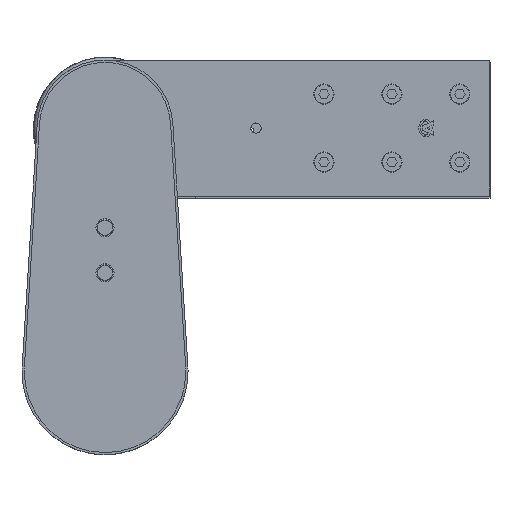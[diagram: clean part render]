
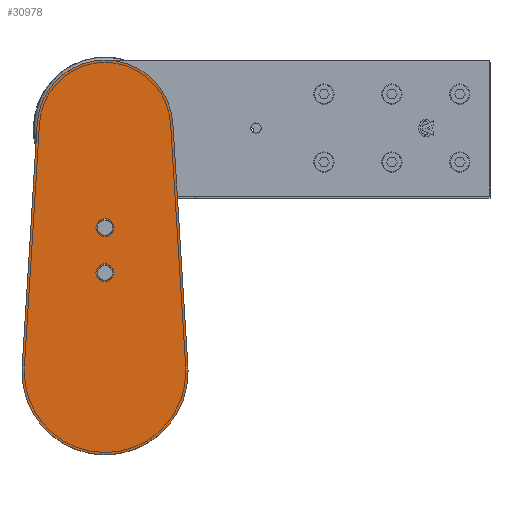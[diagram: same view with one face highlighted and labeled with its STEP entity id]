
A CAD part, top view. The second image highlights one B-rep face of the part: STEP entity #30978.
In plain terms, the highlighted planar face has unit normal (0, 0, 1) as drawn and (0, 0, -1) by its records, which use the part's own axes.
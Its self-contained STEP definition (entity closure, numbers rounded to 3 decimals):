
#223 = CARTESIAN_POINT ( 'NONE',  ( 0., 161.5, 0. ) ) ;
#802 = DIRECTION ( 'NONE',  ( 0., 0., -1. ) ) ;
#994 = CARTESIAN_POINT ( 'NONE',  ( 0., 65.5, 0. ) ) ;
#1112 = CARTESIAN_POINT ( 'NONE',  ( 0., 0., 0. ) ) ;
#1592 = VERTEX_POINT ( 'NONE', #25892 ) ;
#2898 = CIRCLE ( 'NONE', #48712, 45. ) ;
#3396 = CARTESIAN_POINT ( 'NONE',  ( -44.914, 164.286, 0. ) ) ;
#3438 = DIRECTION ( 'NONE',  ( -0.062, 0.998, 0. ) ) ;
#5009 = CARTESIAN_POINT ( 'NONE',  ( -3.5, 95.5, 0. ) ) ;
#5903 = AXIS2_PLACEMENT_3D ( 'NONE', #41710, #23920, #11230 ) ;
#6350 = VERTEX_POINT ( 'NONE', #44635 ) ;
#6671 = AXIS2_PLACEMENT_3D ( 'NONE', #1112, #44398, #48236 ) ;
#7446 = CARTESIAN_POINT ( 'NONE',  ( 55., 0., 0. ) ) ;
#7670 = VERTEX_POINT ( 'NONE', #20261 ) ;
#8711 = DIRECTION ( 'NONE',  ( 1., 0., 0. ) ) ;
#9441 = AXIS2_PLACEMENT_3D ( 'NONE', #42967, #43341, #17027 ) ;
#10037 = EDGE_CURVE ( 'NONE', #27285, #24742, #46266, .T. ) ;
#10058 = ORIENTED_EDGE ( 'NONE', *, *, #32814, .F. ) ;
#10325 = VERTEX_POINT ( 'NONE', #22258 ) ;
#11184 = ORIENTED_EDGE ( 'NONE', *, *, #10037, .F. ) ;
#11230 = DIRECTION ( 'NONE',  ( 1., 0., 0. ) ) ;
#11331 = AXIS2_PLACEMENT_3D ( 'NONE', #994, #802, #26713 ) ;
#12292 = EDGE_CURVE ( 'NONE', #1592, #7670, #51615, .T. ) ;
#12696 = AXIS2_PLACEMENT_3D ( 'NONE', #223, #21576, #8711 ) ;
#12742 = VERTEX_POINT ( 'NONE', #55435 ) ;
#14121 = VERTEX_POINT ( 'NONE', #3396 ) ;
#14702 = ORIENTED_EDGE ( 'NONE', *, *, #12292, .F. ) ;
#16186 = CIRCLE ( 'NONE', #6671, 55. ) ;
#17027 = DIRECTION ( 'NONE',  ( 1., 0., 0. ) ) ;
#17042 = PLANE ( 'NONE',  #12696 ) ;
#17529 = FACE_OUTER_BOUND ( 'NONE', #31058, .T. ) ;
#19036 = ORIENTED_EDGE ( 'NONE', *, *, #33011, .F. ) ;
#19701 = CARTESIAN_POINT ( 'NONE',  ( 0., 0., 0. ) ) ;
#19945 = ORIENTED_EDGE ( 'NONE', *, *, #32907, .F. ) ;
#20181 = DIRECTION ( 'NONE',  ( 1., 0., 0. ) ) ;
#20261 = CARTESIAN_POINT ( 'NONE',  ( 3.5, 65.5, 0. ) ) ;
#20691 = EDGE_CURVE ( 'NONE', #27225, #10325, #43272, .T. ) ;
#21576 = DIRECTION ( 'NONE',  ( 0., 0., 1. ) ) ;
#22053 = DIRECTION ( 'NONE',  ( -0.062, -0.998, 0. ) ) ;
#22258 = CARTESIAN_POINT ( 'NONE',  ( 54.894, 3.406, 0. ) ) ;
#22510 = DIRECTION ( 'NONE',  ( 0., 0., -1. ) ) ;
#23037 = EDGE_CURVE ( 'NONE', #6350, #14121, #2898, .T. ) ;
#23101 = EDGE_LOOP ( 'NONE', ( #19945, #11184 ) ) ;
#23920 = DIRECTION ( 'NONE',  ( 0., 0., 1. ) ) ;
#24086 = DIRECTION ( 'NONE',  ( 1., 0., 0. ) ) ;
#24271 = VECTOR ( 'NONE', #3438, 1000. ) ;
#24388 = AXIS2_PLACEMENT_3D ( 'NONE', #35783, #22510, #35601 ) ;
#24742 = VERTEX_POINT ( 'NONE', #41808 ) ;
#24919 = DIRECTION ( 'NONE',  ( 0., 0., -1. ) ) ;
#25152 = VERTEX_POINT ( 'NONE', #45118 ) ;
#25892 = CARTESIAN_POINT ( 'NONE',  ( -3.5, 65.5, 0. ) ) ;
#26363 = FACE_BOUND ( 'NONE', #54725, .T. ) ;
#26713 = DIRECTION ( 'NONE',  ( 1., 0., 0. ) ) ;
#26924 = CIRCLE ( 'NONE', #9441, 3.5 ) ;
#27225 = VERTEX_POINT ( 'NONE', #7446 ) ;
#27285 = VERTEX_POINT ( 'NONE', #5009 ) ;
#29461 = CARTESIAN_POINT ( 'NONE',  ( 0., 95.5, 0. ) ) ;
#30978 = ADVANCED_FACE ( 'NONE', ( #38528, #26363, #17529 ), #17042, .F. ) ;
#31058 = EDGE_LOOP ( 'NONE', ( #52072, #44194, #50953, #52160, #19036, #50880 ) ) ;
#31473 = LINE ( 'NONE', #48406, #40932 ) ;
#32814 = EDGE_CURVE ( 'NONE', #7670, #1592, #26924, .T. ) ;
#32907 = EDGE_CURVE ( 'NONE', #24742, #27285, #33700, .T. ) ;
#33011 = EDGE_CURVE ( 'NONE', #25152, #12742, #55371, .T. ) ;
#33272 = DIRECTION ( 'NONE',  ( 0., 0., 1. ) ) ;
#33700 = CIRCLE ( 'NONE', #24388, 3.5 ) ;
#33735 = LINE ( 'NONE', #34104, #24271 ) ;
#34104 = CARTESIAN_POINT ( 'NONE',  ( 44.914, 164.286, 0. ) ) ;
#35601 = DIRECTION ( 'NONE',  ( 1., 0., 0. ) ) ;
#35783 = CARTESIAN_POINT ( 'NONE',  ( 0., 95.5, 0. ) ) ;
#37001 = EDGE_CURVE ( 'NONE', #14121, #25152, #31473, .T. ) ;
#38160 = DIRECTION ( 'NONE',  ( 1., 0., 0. ) ) ;
#38528 = FACE_BOUND ( 'NONE', #23101, .T. ) ;
#39502 = EDGE_CURVE ( 'NONE', #12742, #27225, #16186, .T. ) ;
#40932 = VECTOR ( 'NONE', #22053, 1000. ) ;
#41710 = CARTESIAN_POINT ( 'NONE',  ( 0., 0., 0. ) ) ;
#41797 = CARTESIAN_POINT ( 'NONE',  ( 0., 161.5, 0. ) ) ;
#41808 = CARTESIAN_POINT ( 'NONE',  ( 3.5, 95.5, 0. ) ) ;
#42967 = CARTESIAN_POINT ( 'NONE',  ( 0., 65.5, 0. ) ) ;
#43272 = CIRCLE ( 'NONE', #55825, 55. ) ;
#43341 = DIRECTION ( 'NONE',  ( 0., 0., -1. ) ) ;
#44194 = ORIENTED_EDGE ( 'NONE', *, *, #53277, .F. ) ;
#44398 = DIRECTION ( 'NONE',  ( 0., 0., 1. ) ) ;
#44580 = AXIS2_PLACEMENT_3D ( 'NONE', #29461, #24919, #38160 ) ;
#44635 = CARTESIAN_POINT ( 'NONE',  ( 44.914, 164.286, 0. ) ) ;
#45118 = CARTESIAN_POINT ( 'NONE',  ( -54.894, 3.406, 0. ) ) ;
#46266 = CIRCLE ( 'NONE', #44580, 3.5 ) ;
#48236 = DIRECTION ( 'NONE',  ( 1., 0., 0. ) ) ;
#48406 = CARTESIAN_POINT ( 'NONE',  ( -44.914, 164.286, 0. ) ) ;
#48712 = AXIS2_PLACEMENT_3D ( 'NONE', #41797, #33272, #20181 ) ;
#50034 = DIRECTION ( 'NONE',  ( 0., 0., 1. ) ) ;
#50880 = ORIENTED_EDGE ( 'NONE', *, *, #37001, .F. ) ;
#50953 = ORIENTED_EDGE ( 'NONE', *, *, #20691, .F. ) ;
#51615 = CIRCLE ( 'NONE', #11331, 3.5 ) ;
#52072 = ORIENTED_EDGE ( 'NONE', *, *, #23037, .F. ) ;
#52160 = ORIENTED_EDGE ( 'NONE', *, *, #39502, .F. ) ;
#53277 = EDGE_CURVE ( 'NONE', #10325, #6350, #33735, .T. ) ;
#54725 = EDGE_LOOP ( 'NONE', ( #10058, #14702 ) ) ;
#55371 = CIRCLE ( 'NONE', #5903, 55. ) ;
#55435 = CARTESIAN_POINT ( 'NONE',  ( -55., 0., 0. ) ) ;
#55825 = AXIS2_PLACEMENT_3D ( 'NONE', #19701, #50034, #24086 ) ;
